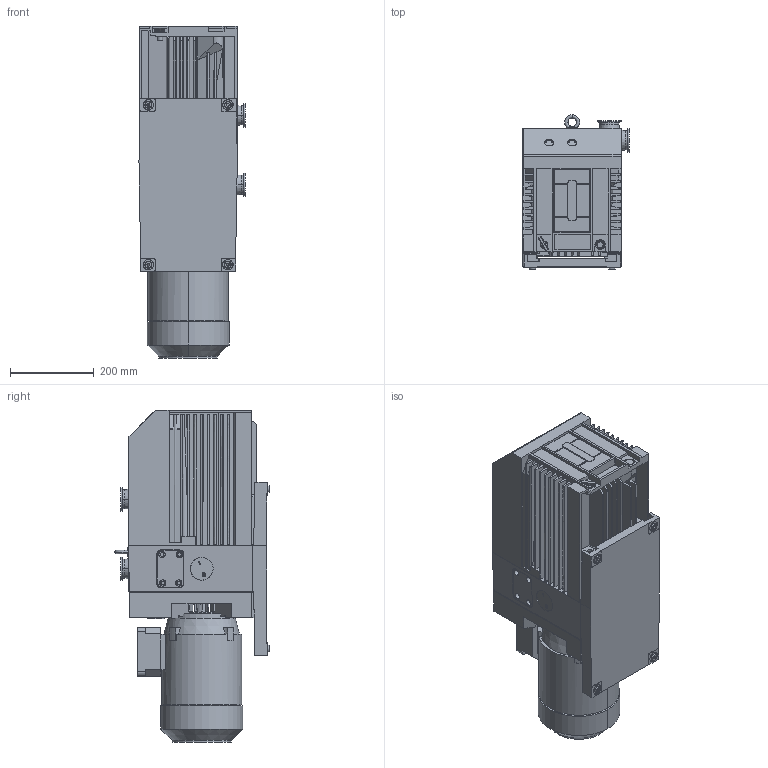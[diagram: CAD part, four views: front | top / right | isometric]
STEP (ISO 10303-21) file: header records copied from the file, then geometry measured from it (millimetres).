
FILE_DESCRIPTION((''),'2;1');
FILE_NAME('300591134_Y19_000_ASM','2016-03-09T',('56762'),('Copyright by Leybold GmbH'),'PRO/ENGINEER BY PARAMETRIC TECHNOLOGY CORPORATION, 2013320','PRO/ENGINEER BY PARAMETRIC TECHNOLOGY CORPORATION, 2013320','');
FILE_SCHEMA(('AUTOMOTIVE_DESIGN { 1 0 10303 214 1 1 1 1 }'));
Length unit declared in the file: millimetre
Products named in the file (21): 300590952_Y19_000; 300591010_Y19_000; 300590956_Y19_000; 300591125_Y19_000; 300591126_Y19_000; 300591127_Y19_000; 300591136_Y19_000; 300590949_Y19_000; 300590947_Y19_000; 300590946_Y19_000; 300591132_Y19_000_ASM; 300590938_Y19_000; 300591152_Y19_000; 300590936_Y19_000; 300590913_Y19_000; 300590922_Y19_000_ASM; 300590935_Y19_000; 300590934_Y19_000; 300590933_Y19_000; 300590931_Y19_000; 300591134_Y19_000_ASM
Assembly tree (29 placements, depth 3):
  300591134_Y19_000_ASM
    300591132_Y19_000_ASM
      300590952_Y19_000
      300591010_Y19_000
      300590956_Y19_000
      300591125_Y19_000
      300591126_Y19_000
      300591127_Y19_000
      300591136_Y19_000
      300590949_Y19_000
      300590947_Y19_000
      300590946_Y19_000
    300590938_Y19_000  x4
    300591152_Y19_000
    300590936_Y19_000
    300590922_Y19_000_ASM
      300590913_Y19_000
    300590935_Y19_000  x3
    300590934_Y19_000  x4
    300590933_Y19_000
    300590931_Y19_000  x2
Bounding box: 253.5 x 369.5 x 793.5 mm (x, y, z)
Volume: 41471906.2 mm3; surface area: 2434288.5 mm2
Topology: 28 solids, 31 shells, 1410 faces, 3607 edges, 2358 vertices
Faces by surface type: plane 875, cylinder 363, cone 123, bspline 34, torus 9, sphere 4, extrusion 2
Entity records: 39022 total; most frequent: CARTESIAN_POINT 8426, ORIENTED_EDGE 6112, DIRECTION 6056, EDGE_CURVE 3056, VECTOR 2160, LINE 2158, VERTEX_POINT 2003, AXIS2_PLACEMENT_3D 1948
